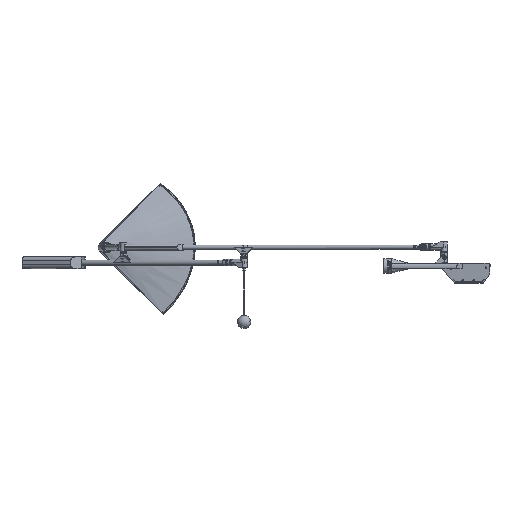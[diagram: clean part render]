
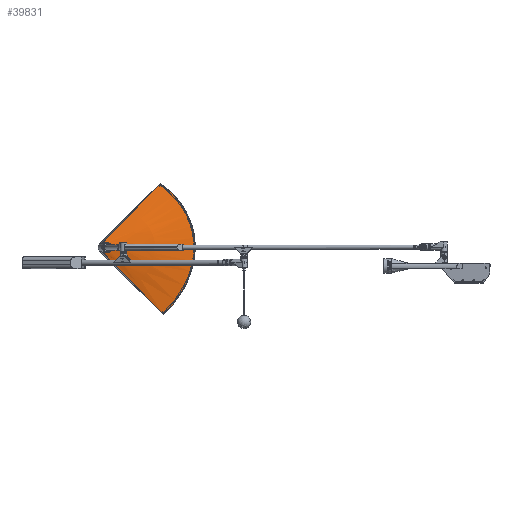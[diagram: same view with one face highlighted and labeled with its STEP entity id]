
A CAD part, top view. The second image highlights one B-rep face of the part: STEP entity #39831.
In plain terms, the highlighted free-form (B-spline) face has degree [3, 3] with [4, 7] control points.
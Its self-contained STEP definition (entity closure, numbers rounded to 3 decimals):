
#949=B_SPLINE_SURFACE_WITH_KNOTS('',3,3,((#54532,#54533,#54534,#54535,#54536,
#54537,#54538),(#54539,#54540,#54541,#54542,#54543,#54544,#54545),(#54546,
#54547,#54548,#54549,#54550,#54551,#54552),(#54553,#54554,#54555,#54556,
#54557,#54558,#54559)),.UNSPECIFIED.,.F.,.F.,.F.,(4,4),(4,3,4),(1.798,
230.415),(0.,374.184,375.954),
 .PIECEWISE_BEZIER_KNOTS.);
#1115=B_SPLINE_CURVE_WITH_KNOTS('',3,(#54560,#54561,#54562,#54563),
 .UNSPECIFIED.,.F.,.F.,(4,4),(0.,0.189),.UNSPECIFIED.);
#1116=B_SPLINE_CURVE_WITH_KNOTS('',3,(#54566,#54567,#54568,#54569,#54570,
#54571,#54572),.UNSPECIFIED.,.F.,.F.,(4,1,1,1,4),(0.,0.25,0.5,0.75,1.),
 .UNSPECIFIED.);
#1117=B_SPLINE_CURVE_WITH_KNOTS('',3,(#54574,#54575,#54576,#54577,#54578,
#54579,#54580,#54581,#54582,#54583,#54584,#54585,#54586,#54587,#54588,#54589,
#54590,#54591,#54592,#54593,#54594,#54595,#54596,#54597,#54598,#54599,#54600,
#54601,#54602,#54603,#54604,#54605,#54606),.UNSPECIFIED.,.F.,.F.,(4,1,1,
1,1,1,1,1,1,1,1,1,1,1,1,1,1,1,1,1,1,1,1,1,1,1,1,1,1,1,4),(0.,0.125,0.188,
0.25,0.313,0.344,0.375,0.406,0.438,0.453,0.469,0.477,0.484,
0.492,0.496,0.5,0.504,0.508,0.516,0.523,0.531,
0.547,0.563,0.594,0.625,0.656,0.688,0.75,0.813,0.875,1.),
 .UNSPECIFIED.);
#1118=B_SPLINE_CURVE_WITH_KNOTS('',3,(#54608,#54609,#54610,#54611),
 .UNSPECIFIED.,.F.,.F.,(4,4),(0.004,0.184),
 .UNSPECIFIED.);
#1119=B_SPLINE_CURVE_WITH_KNOTS('',3,(#54613,#54614,#54615,#54616,#54617,
#54618,#54619,#54620,#54621,#54622,#54623,#54624),.UNSPECIFIED.,.F.,.F.,
(4,1,1,1,1,1,1,1,1,4),(0.001,0.007,0.013,
0.018,0.024,0.027,0.03,
0.035,0.041,0.047),.UNSPECIFIED.);
#2874=ORIENTED_EDGE('',*,*,#12421,.T.);
#2875=ORIENTED_EDGE('',*,*,#12422,.T.);
#2876=ORIENTED_EDGE('',*,*,#12423,.T.);
#2877=ORIENTED_EDGE('',*,*,#12424,.T.);
#2878=ORIENTED_EDGE('',*,*,#12425,.T.);
#12421=EDGE_CURVE('',#17194,#17195,#1115,.T.);
#12422=EDGE_CURVE('',#17195,#17196,#1116,.T.);
#12423=EDGE_CURVE('',#17196,#17197,#1117,.T.);
#12424=EDGE_CURVE('',#17197,#17198,#1118,.T.);
#12425=EDGE_CURVE('',#17198,#17194,#1119,.T.);
#17194=VERTEX_POINT('',#54564);
#17195=VERTEX_POINT('',#54565);
#17196=VERTEX_POINT('',#54573);
#17197=VERTEX_POINT('',#54607);
#17198=VERTEX_POINT('',#54612);
#26656=EDGE_LOOP('',(#2874,#2875,#2876,#2877,#2878));
#29255=FACE_BOUND('',#26656,.T.);
#39831=ADVANCED_FACE('',(#29255),#949,.F.);
#54532=CARTESIAN_POINT('',(141.62,-146.004,0.274));
#54533=CARTESIAN_POINT('',(234.764,-52.011,0.48));
#54534=CARTESIAN_POINT('',(230.266,68.891,0.48));
#54535=CARTESIAN_POINT('',(134.601,138.984,0.275));
#54536=CARTESIAN_POINT('',(134.148,139.316,0.274));
#54537=CARTESIAN_POINT('',(133.696,139.647,0.273));
#54538=CARTESIAN_POINT('',(133.243,139.979,0.272));
#54539=CARTESIAN_POINT('',(97.725,-100.474,11.904));
#54540=CARTESIAN_POINT('',(174.599,-35.795,20.775));
#54541=CARTESIAN_POINT('',(171.505,47.407,20.783));
#54542=CARTESIAN_POINT('',(92.898,95.642,11.937));
#54543=CARTESIAN_POINT('',(92.526,95.87,11.895));
#54544=CARTESIAN_POINT('',(92.154,96.098,11.853));
#54545=CARTESIAN_POINT('',(91.782,96.326,11.812));
#54546=CARTESIAN_POINT('',(53.829,-54.944,23.534));
#54547=CARTESIAN_POINT('',(92.559,-19.571,36.322));
#54548=CARTESIAN_POINT('',(90.868,25.918,36.334));
#54549=CARTESIAN_POINT('',(51.194,52.3,23.599));
#54550=CARTESIAN_POINT('',(51.007,52.424,23.539));
#54551=CARTESIAN_POINT('',(50.819,52.549,23.479));
#54552=CARTESIAN_POINT('',(50.631,52.674,23.418));
#54553=CARTESIAN_POINT('',(9.933,-9.413,35.163));
#54554=CARTESIAN_POINT('',(16.495,-3.363,37.542));
#54555=CARTESIAN_POINT('',(16.209,4.438,37.563));
#54556=CARTESIAN_POINT('',(9.491,8.957,35.261));
#54557=CARTESIAN_POINT('',(9.459,8.979,35.25));
#54558=CARTESIAN_POINT('',(9.427,9.,35.239));
#54559=CARTESIAN_POINT('',(9.396,9.021,35.228));
#54560=CARTESIAN_POINT('',(10.961,-9.992,35.045));
#54561=CARTESIAN_POINT('',(53.998,-54.578,23.624));
#54562=CARTESIAN_POINT('',(97.039,-99.16,12.201));
#54563=CARTESIAN_POINT('',(140.073,-143.747,0.771));
#54564=CARTESIAN_POINT('',(10.961,-9.992,35.045));
#54565=CARTESIAN_POINT('',(140.073,-143.747,0.771));
#54566=CARTESIAN_POINT('',(140.073,-143.747,0.771));
#54567=CARTESIAN_POINT('',(147.31,-136.804,0.77));
#54568=CARTESIAN_POINT('',(162.421,-120.731,0.768));
#54569=CARTESIAN_POINT('',(184.113,-89.659,0.762));
#54570=CARTESIAN_POINT('',(201.334,-51.599,0.756));
#54571=CARTESIAN_POINT('',(207.117,-21.992,0.756));
#54572=CARTESIAN_POINT('',(207.817,-6.401,0.755));
#54573=CARTESIAN_POINT('',(207.817,-6.401,0.755));
#54574=CARTESIAN_POINT('',(207.817,-6.401,0.755));
#54575=CARTESIAN_POINT('',(208.146,0.954,0.755));
#54576=CARTESIAN_POINT('',(207.886,11.823,0.755));
#54577=CARTESIAN_POINT('',(206.117,25.901,0.756));
#54578=CARTESIAN_POINT('',(204.1,36.235,0.757));
#54579=CARTESIAN_POINT('',(201.86,44.644,0.758));
#54580=CARTESIAN_POINT('',(199.743,51.242,0.758));
#54581=CARTESIAN_POINT('',(197.996,56.123,0.759));
#54582=CARTESIAN_POINT('',(196.092,60.936,0.759));
#54583=CARTESIAN_POINT('',(194.375,64.888,0.759));
#54584=CARTESIAN_POINT('',(192.927,68.013,0.759));
#54585=CARTESIAN_POINT('',(191.989,69.952,0.759));
#54586=CARTESIAN_POINT('',(191.221,71.492,0.759));
#54587=CARTESIAN_POINT('',(190.635,72.645,0.759));
#54588=CARTESIAN_POINT('',(190.142,73.595,0.759));
#54589=CARTESIAN_POINT('',(189.734,74.369,0.759));
#54590=CARTESIAN_POINT('',(189.451,74.902,0.759));
#54591=CARTESIAN_POINT('',(189.071,75.609,0.759));
#54592=CARTESIAN_POINT('',(188.595,76.486,0.759));
#54593=CARTESIAN_POINT('',(187.982,77.595,0.759));
#54594=CARTESIAN_POINT('',(187.242,78.904,0.759));
#54595=CARTESIAN_POINT('',(186.242,80.637,0.759));
#54596=CARTESIAN_POINT('',(184.971,82.77,0.759));
#54597=CARTESIAN_POINT('',(182.892,86.119,0.76));
#54598=CARTESIAN_POINT('',(180.216,90.181,0.76));
#54599=CARTESIAN_POINT('',(176.893,94.86,0.761));
#54600=CARTESIAN_POINT('',(173.475,99.347,0.761));
#54601=CARTESIAN_POINT('',(168.806,105.077,0.762));
#54602=CARTESIAN_POINT('',(162.798,111.771,0.764));
#54603=CARTESIAN_POINT('',(155.415,119.082,0.766));
#54604=CARTESIAN_POINT('',(145.469,127.908,0.768));
#54605=CARTESIAN_POINT('',(138.034,133.536,0.769));
#54606=CARTESIAN_POINT('',(133.197,136.893,0.77));
#54607=CARTESIAN_POINT('',(133.197,136.893,0.77));
#54608=CARTESIAN_POINT('',(133.197,136.893,0.77));
#54609=CARTESIAN_POINT('',(92.42,94.568,12.201));
#54610=CARTESIAN_POINT('',(51.627,52.257,23.629));
#54611=CARTESIAN_POINT('',(10.858,9.919,35.043));
#54612=CARTESIAN_POINT('',(10.858,9.919,35.043));
#54613=CARTESIAN_POINT('',(10.858,9.919,35.043));
#54614=CARTESIAN_POINT('',(12.56,10.77,34.893));
#54615=CARTESIAN_POINT('',(16.42,11.568,34.914));
#54616=CARTESIAN_POINT('',(22.049,9.911,35.46));
#54617=CARTESIAN_POINT('',(26.252,5.779,36.028));
#54618=CARTESIAN_POINT('',(27.584,1.035,36.178));
#54619=CARTESIAN_POINT('',(27.074,-2.814,36.043));
#54620=CARTESIAN_POINT('',(25.602,-6.34,35.78));
#54621=CARTESIAN_POINT('',(22.175,-9.825,35.298));
#54622=CARTESIAN_POINT('',(16.542,-11.576,34.847));
#54623=CARTESIAN_POINT('',(12.687,-10.83,34.886));
#54624=CARTESIAN_POINT('',(10.961,-9.992,35.045));
